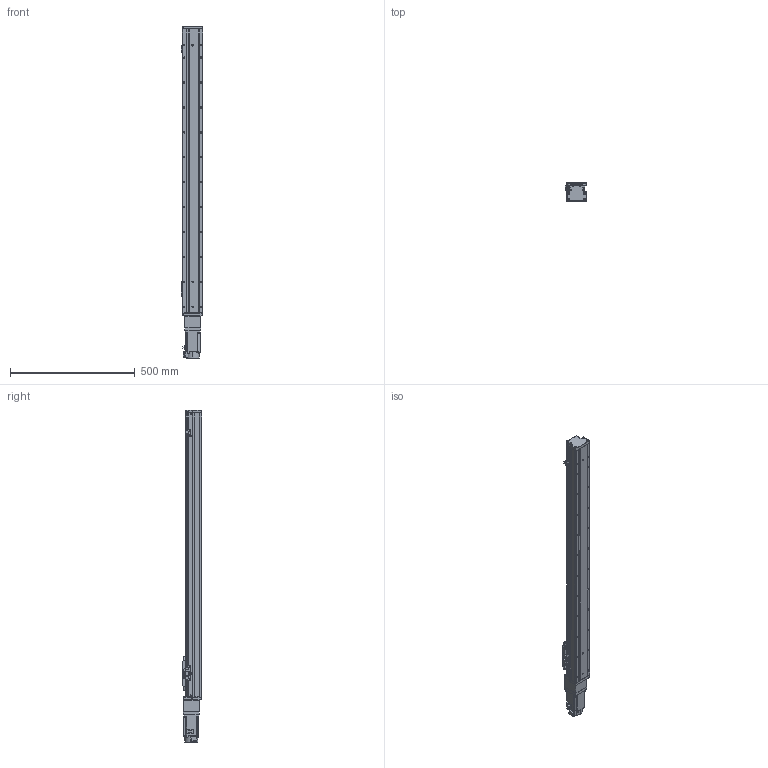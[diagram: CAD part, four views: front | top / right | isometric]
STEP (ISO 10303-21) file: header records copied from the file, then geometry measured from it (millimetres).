
FILE_DESCRIPTION (( 'STEP AP203' ), '1' );
FILE_NAME ('GTH8-950-BC-M20-C4.step', '2022-09-23T00:56:43', ( '微软用户' ), ( '微软中国' ), 'SwSTEP 2.0', 'SolidWorks 2020', '' );
FILE_SCHEMA (( 'CONFIG_CONTROL_DESIGN' ));
Length unit declared in the file: millimetre
Products named in the file (19): GTH8-950-BC-M20-C4; GBT 70.3-M3℅6; GBT96.1-2002 3×0.8; GTH80-022; BTH-M3X5X6; GTH80-001_950; GBT 70.1-M3℅6; CTHA86-006-1_CTHA86-006-2; GTH80-003; GBT 70.1-M4×16; CTHA86-013; GTH80-004; GTH80-028; CTHA86-027; GTH80-006; GTH50-024; hg-kn43j_-s100_; GTH80-013; GTH50-023
Assembly tree (60 placements, depth 2):
  GTH8-950-BC-M20-C4
    GTH80-001_950
    GTH80-003
    GTH80-004
    GTH80-006
    GTH80-013
    GBT 70.3-M3℅6  x6
    GTH80-022
    GBT 70.1-M3℅6  x14
    GBT 70.1-M4×16  x8
    GTH80-028  x2
    GTH50-024  x3
    GTH50-023  x3
    GBT96.1-2002 3×0.8  x6
    BTH-M3X5X6  x8
    CTHA86-006-1_CTHA86-006-2
    CTHA86-013
    CTHA86-027
    hg-kn43j_-s100_
Bounding box: 86.9 x 78 x 1332.7 mm (x, y, z)
Volume: 5742688.9 mm3; surface area: 565632.3 mm2
Topology: 62 solids, 62 shells, 2247 faces, 5176 edges, 3155 vertices
Faces by surface type: plane 1173, cylinder 617, cone 285, torus 162, sphere 8, bspline 2
Entity records: 39408 total; most frequent: CARTESIAN_POINT 6503, DIRECTION 6478, ORIENTED_EDGE 5942, EDGE_CURVE 2971, AXIS2_PLACEMENT_3D 2272, LINE 1934, VECTOR 1934, VERTEX_POINT 1868
